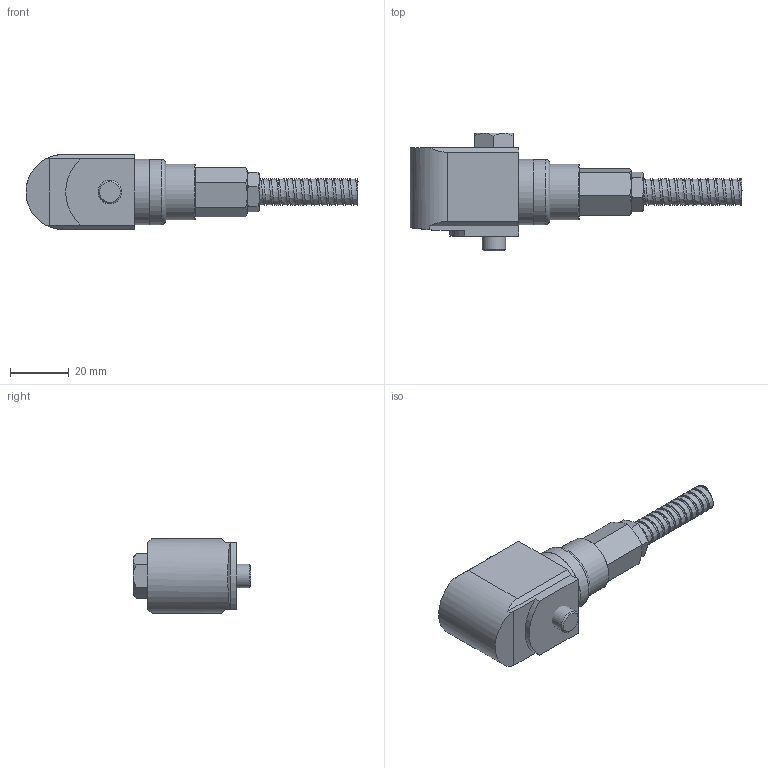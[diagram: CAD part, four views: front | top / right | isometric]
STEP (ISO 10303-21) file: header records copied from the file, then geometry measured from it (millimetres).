
FILE_DESCRIPTION(/* description */ (''),/* implementation_level */ '2;1');
FILE_NAME(/* name */ 'Z:\Engineering\Drawings\3D Library\Assemblies\Website\Premium Side\HS-150 Side Silicon Conduit\HS-150SXXX29C08.stp',/* time_stamp */ '2023-03-12T17:24:54+00:00',/* author */ ('Ricardo.Peneda'),/* organization */ (''),/* preprocessor_version */ 'ST-DEVELOPER v18.1',/* originating_system */ 'Autodesk Inventor 2021',/* authorisation */ '');
FILE_SCHEMA (('AUTOMOTIVE_DESIGN { 1 0 10303 214 3 1 1 }'));
Length unit declared in the file: inch
Products named in the file (1): HS-150SXXX29C08_Shrinkwrap_1
Bounding box: 112.78 x 40 x 25.5 mm (x, y, z)
Volume: 30201.6 mm3; surface area: 18022.8 mm2
Topology: 7 solids, 7 shells, 134 faces, 335 edges, 237 vertices
Faces by surface type: plane 66, cylinder 30, cone 28, bspline 8, torus 2
Full cylindrical faces by diameter (mm): 6.4 x1, 6.5 x1, 6.647 x1, 7.9 x2, 8 x1, 8.6 x1, 9 x1, 10 x1, 10.2 x1, 11.959 x1, 12 x3, 13 x1, 14 x2, 14.95 x1, 15 x2, 15.34 x1, 15.35 x1, 18 x1, 19 x1, 19.95 x1, 20 x1, 22.2 x2
Entity records: 18269 total; most frequent: CARTESIAN_POINT 14832, DIRECTION 684, ORIENTED_EDGE 670, EDGE_CURVE 335, AXIS2_PLACEMENT_3D 281, VERTEX_POINT 237, EDGE_LOOP 162, CIRCLE 149
